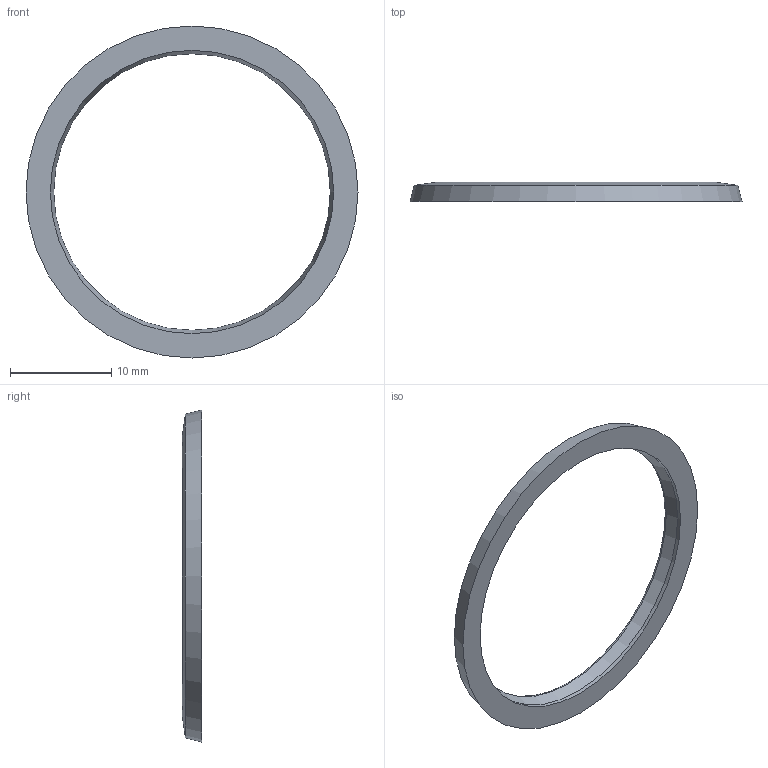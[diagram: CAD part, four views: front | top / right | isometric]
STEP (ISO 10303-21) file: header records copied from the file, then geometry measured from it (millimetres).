
FILE_DESCRIPTION( ( 'STEP AP203' ), '1' );
FILE_NAME( 'C:/Temp/Ganter_Step_05_03_2020/data/3_5/gn7600/Sealing ring GN 7600-32-28-2-EPDM-85.stp', '2020-03-12T13:43:54', ( 'License CC BY-ND 4.0' ), ( 'CADENAS' ), ' ', 'PARTsolutions', ' ' );
FILE_SCHEMA( ( 'CONFIG_CONTROL_DESIGN' ) );
Length unit declared in the file: millimetre
Products named in the file (1): _Sealing ring GN 7600-32-28-2-EPDM-85
Bounding box: 32.8 x 1.9 x 32.8 mm (x, y, z)
Volume: 384.9 mm3; surface area: 779 mm2
Topology: 1 solids, 1 shells, 6 faces, 11 edges, 6 vertices
Faces by surface type: cone 3, torus 1, cylinder 1, plane 1
Full cylindrical faces by diameter (mm): 28 x1
Entity records: 172 total; most frequent: DIRECTION 26, CARTESIAN_POINT 19, AXIS2_PLACEMENT_3D 13, EDGE_LOOP 12, ORIENTED_EDGE 12, FACE_OUTER_BOUND 8, ADVANCED_FACE 6, EDGE_CURVE 6
